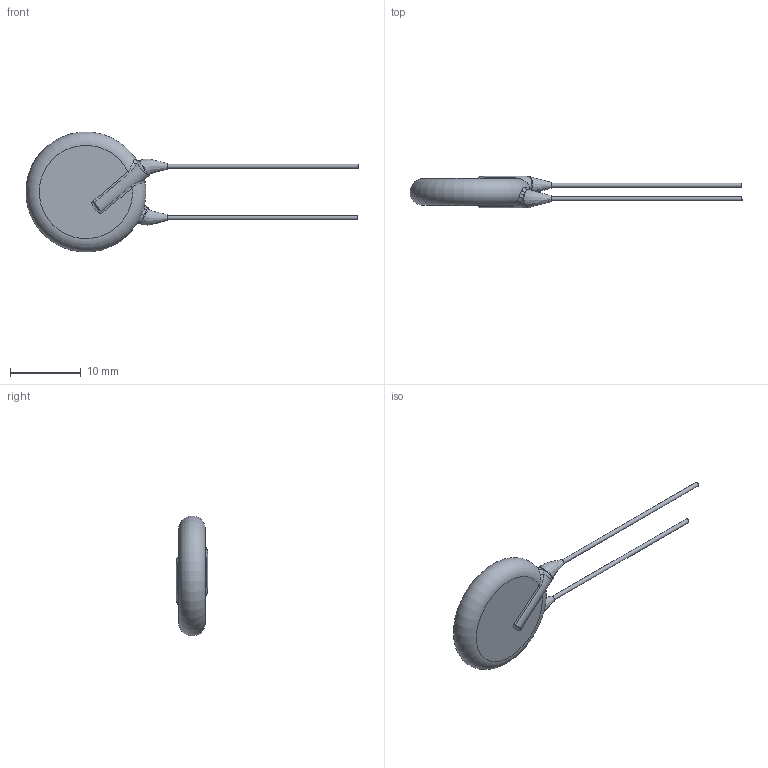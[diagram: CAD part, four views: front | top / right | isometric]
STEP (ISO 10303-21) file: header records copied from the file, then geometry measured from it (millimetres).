
FILE_DESCRIPTION(/* description */ (''),/* implementation_level */ '2;1');
FILE_NAME(/* name */ 'I:\Marketing\M6t1\3D-Models\Zchng-Werk-3\Upload for homepage\Roederstein\WYO\Y5U_250-440\WYO682MCMCF0KR\WYO682MCMCF0KR.stp',/* time_stamp */ '2018-03-20T16:00:23+01:00',/* author */ ('sheinrich'),/* organization */ (''),/* preprocessor_version */ 'ST-DEVELOPER v16.1',/* originating_system */ 'Autodesk Inventor 2016',/* authorisation */ '');
FILE_SCHEMA (('AUTOMOTIVE_DESIGN { 1 0 10303 214 3 1 1 }'));
Length unit declared in the file: centimetre
Products named in the file (1): WYO682MCMCF0KR
Bounding box: 46.97 x 4.5 x 16.94 mm (x, y, z)
Volume: 831.6 mm3; surface area: 711.1 mm2
Topology: 1 solids, 1 shells, 41 faces, 90 edges, 53 vertices
Faces by surface type: bspline 22, cylinder 8, plane 6, torus 5
Full cylindrical faces by diameter (mm): 0.6 x2
Entity records: 2035 total; most frequent: CARTESIAN_POINT 1204, ORIENTED_EDGE 172, DIRECTION 116, EDGE_CURVE 86, AXIS2_PLACEMENT_3D 54, VERTEX_POINT 52, EDGE_LOOP 46, B_SPLINE_CURVE_WITH_KNOTS 44
